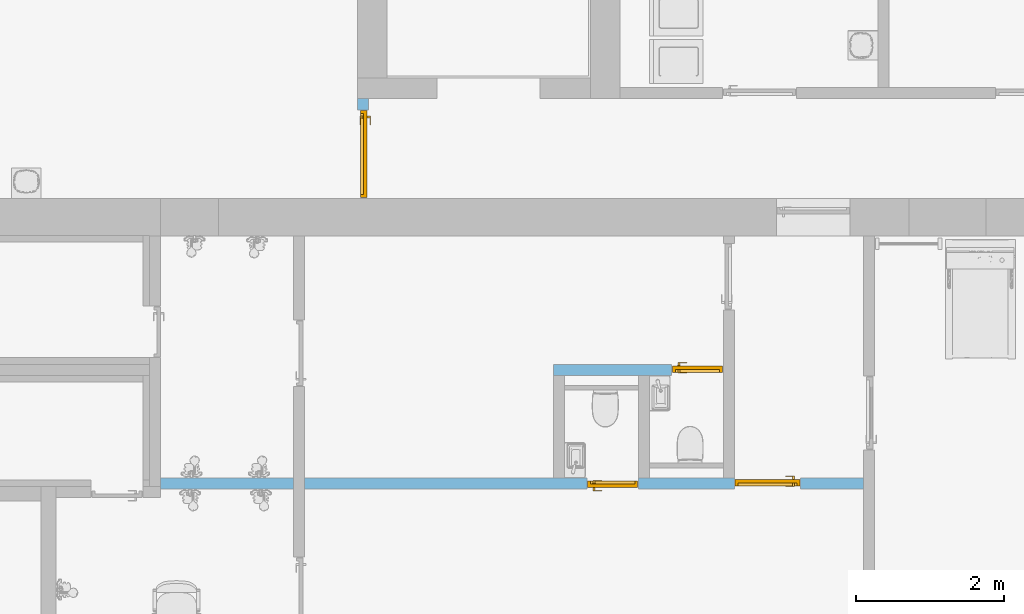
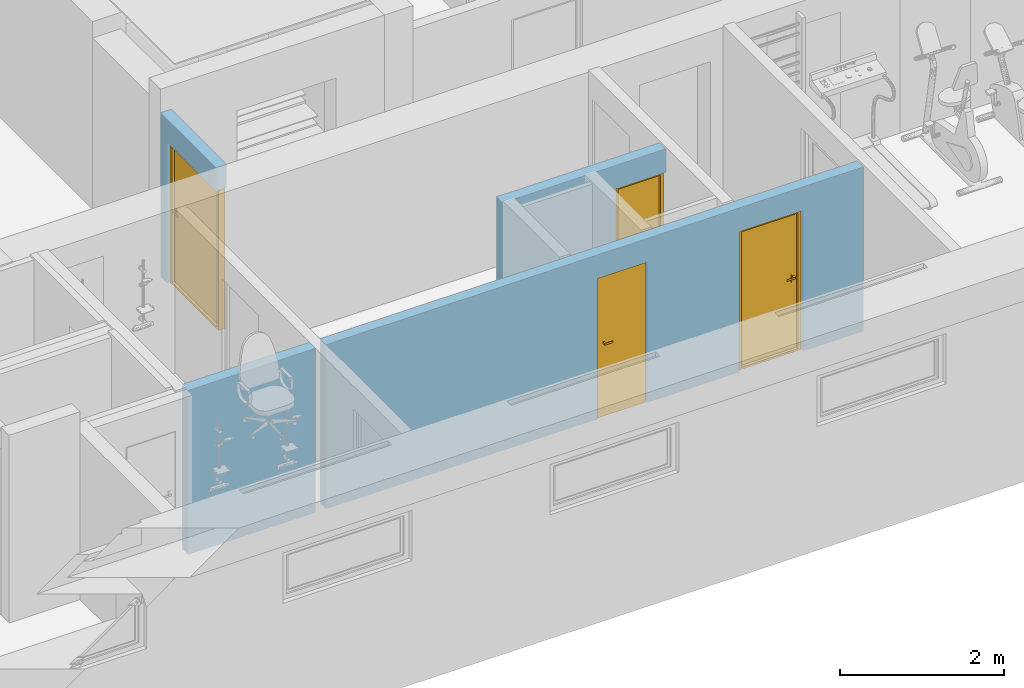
# One storey, part 11 of 23: 4 doors, 5 openings, plus 3 elements that do not belong to this part.
"""IFC2X3 building model written with IfcOpenShell, lengths in millimetres."""

from ifc_helpers import new_model, entity, si_unit, converted_unit, derived_unit, direction, frame, frame_2d, origin, place, context, subcontext, project, spatial, rectangle, extrude, faceted_brep, source, transform, mapped, material, material_list, layer, layer_set, layer_usage, type_object, type_shapes, element, fill, save


model = new_model("IFC2X3")

# Units and contexts
model_context = context("Model", 3, precision=0.01, world=origin(), true_north=direction((6.12303176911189e-17, 1.0)))
body_context = subcontext(model_context, "Body", "Model", "MODEL_VIEW")
ifc_project = project(units=[si_unit("LENGTHUNIT", "METRE", prefix="MILLI"), si_unit("AREAUNIT", "SQUARE_METRE"), si_unit("VOLUMEUNIT", "CUBIC_METRE"), converted_unit("PLANEANGLEUNIT", "DEGREE", entity("IfcRatioMeasure", 0.0174532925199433), si_unit("PLANEANGLEUNIT", "RADIAN"), dimensions=[0, 0, 0, 0, 0, 0, 0]), si_unit("MASSUNIT", "GRAM", prefix="KILO"), derived_unit("MASSDENSITYUNIT", [(si_unit("MASSUNIT", "GRAM", prefix="KILO"), 1), (si_unit("LENGTHUNIT", "METRE"), -3)]), si_unit("TIMEUNIT", "SECOND"), si_unit("FREQUENCYUNIT", "HERTZ"), si_unit("THERMODYNAMICTEMPERATUREUNIT", "DEGREE_CELSIUS"), derived_unit("THERMALTRANSMITTANCEUNIT", [(si_unit("MASSUNIT", "GRAM", prefix="KILO"), 1), (si_unit("THERMODYNAMICTEMPERATUREUNIT", "KELVIN"), -1), (si_unit("TIMEUNIT", "SECOND"), -3)]), derived_unit("VOLUMETRICFLOWRATEUNIT", [(si_unit("LENGTHUNIT", "METRE"), 3), (si_unit("TIMEUNIT", "SECOND"), -1)]), si_unit("ELECTRICCURRENTUNIT", "AMPERE"), si_unit("ELECTRICVOLTAGEUNIT", "VOLT"), si_unit("POWERUNIT", "WATT"), si_unit("FORCEUNIT", "NEWTON", prefix="KILO"), si_unit("ILLUMINANCEUNIT", "LUX"), si_unit("LUMINOUSFLUXUNIT", "LUMEN"), si_unit("LUMINOUSINTENSITYUNIT", "CANDELA"), derived_unit("USERDEFINED", [(si_unit("MASSUNIT", "GRAM", prefix="KILO"), -1), (si_unit("LENGTHUNIT", "METRE"), -2), (si_unit("TIMEUNIT", "SECOND"), 3), (si_unit("LUMINOUSFLUXUNIT", "LUMEN"), 1)]), derived_unit("LINEARVELOCITYUNIT", [(si_unit("LENGTHUNIT", "METRE"), 1), (si_unit("TIMEUNIT", "SECOND"), -1)]), si_unit("PRESSUREUNIT", "PASCAL"), derived_unit("USERDEFINED", [(si_unit("LENGTHUNIT", "METRE"), -2), (si_unit("MASSUNIT", "GRAM", prefix="KILO"), 1), (si_unit("TIMEUNIT", "SECOND"), -2)]), derived_unit("LINEARFORCEUNIT", [(si_unit("MASSUNIT", "GRAM", prefix="KILO"), 1), (si_unit("LENGTHUNIT", "METRE"), 1), (si_unit("TIMEUNIT", "SECOND"), -2), (si_unit("LENGTHUNIT", "METRE"), -1)]), derived_unit("PLANARFORCEUNIT", [(si_unit("MASSUNIT", "GRAM", prefix="KILO"), 1), (si_unit("LENGTHUNIT", "METRE"), 1), (si_unit("TIMEUNIT", "SECOND"), -2), (si_unit("LENGTHUNIT", "METRE"), -2)])], contexts=[model_context])

# Site, building, storey
site_placement = place(None, origin())
site = spatial("IfcSite", under=ifc_project, at=site_placement, Name="Default", CompositionType="ELEMENT")
building_placement = place(site_placement, origin())
building = spatial("IfcBuilding", under=site, at=building_placement, Name="SMA ARH", CompositionType="ELEMENT")
storey_placement = place(building_placement, frame((0.0, 0.0, -2800.0)))
storey = spatial("IfcBuildingStorey", under=building, at=storey_placement, Name="0 Sokkel", CompositionType="ELEMENT", Elevation=-2800.0)

# Wall, opening, door
ifc_material_1 = material(Name="EST. Müüritis. Väikeplokk. Kergkruusplokk")
ifc_layer_1 = layer(ifc_material_1, 150.0)
ifc_layer_set_1 = layer_set([ifc_layer_1], Name="Basic Wall:SS-02_ 150mm šahtide vahesein")
ifc_layer_usage_1 = layer_usage(ifc_layer_set_1, "AXIS2", "NEGATIVE", 75.0)
wall_type_1 = type_object("IfcWallType", Name="Basic Wall:SS-02_ 150mm šahtide vahesein", PredefinedType="STANDARD", material=ifc_layer_set_1)
wall_1_placement = place(storey_placement, frame((8515.0, 7875.0, 0.0), z_axis=(0.0, 0.0, 1.0), x_axis=(0.0, -1.0, 0.0)))
wall_1 = element("IfcWallStandardCase", 1, at=wall_1_placement, inside=storey, type_object=wall_type_1, material=ifc_layer_usage_1, Name="Basic Wall:SS-02_ 150mm šahtide vahesein", ObjectType="Basic Wall:SS-02_ 150mm šahtide vahesein", context=body_context, shape_type="SweptSolid", body=[
    extrude(rectangle(XDim=1354.99999999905, YDim=150.000000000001, at=frame_2d((677.499999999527, -2.8421709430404e-14), x_axis=(-1.0, 0.0))), origin(), (0.0, 0.0, 1.0), 2450.0),
])
opening_1_placement = place(wall_1_placement, frame((155.0, -75.0, 0.0)))
opening_1 = element("IfcOpeningElement", 2, at=opening_1_placement, cuts=wall_1, Name="SMA_D01, 1-poolne:SU-M-01 - 1200x2100 EI-30:1", ObjectType="Opening", context=body_context, shape_type="SweptSolid", body=[
    extrude(rectangle(XDim=2099.99999999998, YDim=1200.0, at=frame_2d((1049.99999999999, 600.0), x_axis=(1.0, 0.0))), frame((0.0, 0.0, 0.0), z_axis=(0.0, 1.0, 0.0), x_axis=(0.0, 0.0, 1.0)), (0.0, 0.0, 1.0), 150.0),
])
ifc_material_2 = material(Name="EST. Metall. Alumiinium. Värvitud. RAL7023 (Concrete grey)")
ifc_material_3 = material(Name="<Unnamed>")
ifc_material_4 = material(Name="EST. Klaas. 3x. Default")
ifc_material_list_1 = material_list([ifc_material_3, ifc_material_3, ifc_material_2, ifc_material_2, ifc_material_2, ifc_material_3, ifc_material_4])
door_style_1 = type_object("IfcDoorStyle", Name="SMA_D01, 1-poolne:SU-M-01 - 1200x2100 EI-30", ConstructionType="NOTDEFINED", OperationType="NOTDEFINED", ParameterTakesPrecedence=False, Sizeable=False, material=ifc_material_list_1)
shared_shape_1 = source(origin(), body_context, "Body", "Brep", [
    faceted_brep([(110.0, 40.0, 1112.5), (110.0, 78.0, 1112.5), (85.0, 78.0, 1112.5), (85.0, 35.0, 1112.5), (205.0, 35.0, 1112.5), (205.0, 40.0, 1112.5), (110.0, 40.0, 1087.5), (205.0, 40.0, 1087.5), (205.0, 35.0, 1087.5), (85.0, 35.0, 1087.5), (85.0, 78.0, 1087.5), (110.0, 78.0, 1087.5)], [[[0, 1, 2, 3, 4, 5]], [[6, 7, 8, 9, 10, 11]], [[1, 0, 6, 11]], [[2, 1, 11, 10]], [[3, 2, 10, 9]], [[4, 3, 9, 8]], [[5, 4, 8, 7]], [[0, 5, 7, 6]]]),
    faceted_brep([(122.499999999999, 78.0, 1137.5), (122.499999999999, 80.0, 1137.5), (72.4999999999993, 80.0, 1137.5), (72.4999999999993, 78.0, 1137.5), (122.499999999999, 78.0, 1017.5), (72.4999999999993, 78.0, 1017.5), (72.4999999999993, 80.0, 1017.5), (122.499999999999, 80.0, 1017.5)], [[[0, 1, 2, 3]], [[4, 5, 6, 7]], [[1, 0, 4, 7]], [[2, 1, 7, 6]], [[3, 2, 6, 5]], [[0, 3, 5, 4]]]),
    faceted_brep([(110.0, 170.0, 1112.5), (205.0, 170.0, 1112.5), (205.0, 175.0, 1112.5), (85.0, 175.0, 1112.5), (85.0, 132.0, 1112.5), (110.0, 132.0, 1112.5), (110.0, 170.0, 1087.5), (110.0, 132.0, 1087.5), (85.0, 132.0, 1087.5), (85.0, 175.0, 1087.5), (205.0, 175.0, 1087.5), (205.0, 170.0, 1087.5)], [[[0, 1, 2, 3, 4, 5]], [[6, 7, 8, 9, 10, 11]], [[5, 7, 6, 0]], [[4, 8, 7, 5]], [[3, 9, 8, 4]], [[2, 10, 9, 3]], [[1, 11, 10, 2]], [[0, 6, 11, 1]]]),
    faceted_brep([(122.499999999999, 132.0, 1137.5), (72.4999999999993, 132.0, 1137.5), (72.4999999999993, 130.0, 1137.5), (122.499999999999, 130.0, 1137.5), (122.499999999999, 132.0, 1017.5), (122.499999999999, 130.0, 1017.5), (72.4999999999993, 130.0, 1017.5), (72.4999999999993, 132.0, 1017.5)], [[[0, 1, 2, 3]], [[4, 5, 6, 7]], [[3, 5, 4, 0]], [[2, 6, 5, 3]], [[1, 7, 6, 2]], [[0, 4, 7, 1]]]),
    faceted_brep([(1150.0, 40.0, 30.0), (1150.0, 40.0, 0.0), (1150.0, 80.0, 0.0), (1150.0, 80.0, 20.0), (1150.0, 80.0, 30.0), (50.0, 40.0, 30.0), (50.0, 80.0, 30.0), (50.0, 80.0, 20.0), (50.0, 80.0, 0.0), (50.0, 40.0, 0.0), (35.0, 80.0, 0.0), (35.0, 130.0, 0.0), (1165.0, 130.0, 0.0), (1165.0, 80.0, 0.0), (1165.0, 130.0, 20.0), (1165.0, 80.0, 20.0), (35.0, 130.0, 20.0), (35.0, 80.0, 20.0)], [[[0, 1, 2, 3, 4]], [[5, 6, 7, 8, 9]], [[1, 0, 5, 9]], [[2, 1, 9, 8, 10, 11, 12, 13]], [[6, 4, 3, 7]], [[0, 4, 6, 5]], [[14, 15, 13, 12]], [[16, 11, 10, 17]], [[15, 14, 16, 17, 7, 3]], [[13, 15, 3, 2]], [[14, 12, 11, 16]], [[17, 10, 8, 7]]]),
    faceted_brep([(1190.0, 40.0, 0.0), (1150.0, 40.0, 0.0), (1150.0, 80.0, 0.0), (1165.0, 80.0, 0.0), (1165.0, 130.0, 0.0), (1190.0, 130.0, 0.0), (1190.0, 40.0, 2090.0), (10.0, 40.0, 2090.0), (10.0, 40.0, 0.0), (50.0, 40.0, 0.0), (50.0, 40.0, 2050.0), (1150.0, 40.0, 2050.0), (1150.0, 80.0, 2050.0), (50.0, 80.0, 2050.0), (50.0, 80.0, 0.0), (35.0, 80.0, 0.0), (35.0, 80.0, 2065.0), (1165.0, 80.0, 2065.0), (1165.0, 130.0, 2065.0), (35.0, 130.0, 2065.0), (35.0, 130.0, 0.0), (10.0, 130.0, 0.0), (10.0, 130.0, 2090.0), (1190.0, 130.0, 2090.0)], [[[0, 1, 2, 3, 4, 5]], [[1, 0, 6, 7, 8, 9, 10, 11]], [[2, 1, 11, 12]], [[3, 2, 12, 13, 14, 15, 16, 17]], [[4, 3, 17, 18]], [[5, 4, 18, 19, 20, 21, 22, 23]], [[0, 5, 23, 6]], [[8, 7, 22, 21]], [[9, 8, 21, 20, 15, 14]], [[10, 9, 14, 13]], [[16, 15, 20, 19]], [[11, 10, 13, 12]], [[17, 16, 19, 18]], [[7, 6, 23, 22]]]),
    faceted_brep([(35.0, 80.0, 2065.0), (35.0, 80.0, 20.0), (1165.0, 80.0, 20.0), (1165.0, 80.0, 2065.0), (35.0, 130.0, 2065.0), (1165.0, 130.0, 2065.0), (1165.0, 130.0, 20.0), (35.0, 130.0, 20.0)], [[[0, 1, 2, 3]], [[4, 5, 6, 7]], [[1, 0, 4, 7]], [[2, 1, 7, 6]], [[3, 2, 6, 5]], [[0, 3, 5, 4]]]),
])
type_shapes(door_style_1, [shared_shape_1])
door_1_placement = place(opening_1_placement, origin())
door_1 = element("IfcDoor", 3, at=door_1_placement, inside=storey, type_object=door_style_1, material=ifc_material_2, Name="SMA_D01, 1-poolne:SU-M-01 - 1200x2100 EI-30", ObjectType="SMA_D01, 1-poolne:SU-M-01 - 1200x2100 EI-30", OverallHeight=2099.99999999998, OverallWidth=1200.0, context=body_context, shape_type="MappedRepresentation", body=[
    mapped(shared_shape_1, transform((0.0, 0.0, 0.0), scale=1.0)),
])
fill(opening_1, door_1)

# Wall, openings, doors
ifc_layer_2 = layer(ifc_material_1, 150.0)
ifc_layer_set_2 = layer_set([ifc_layer_2], Name="Basic Wall:SS-01_ 150mm soklikorruse seinad")
ifc_layer_usage_2 = layer_usage(ifc_layer_set_2, "AXIS2", "NEGATIVE", 75.0)
wall_type_2 = type_object("IfcWallType", Name="Basic Wall:SS-01_ 150mm soklikorruse seinad", PredefinedType="STANDARD", material=ifc_layer_set_2)
wall_2_placement = place(storey_placement, frame((5769.97172272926, 2655.0, 0.0)))
wall_2 = element("IfcWallStandardCase", 4, at=wall_2_placement, inside=storey, type_object=wall_type_2, material=ifc_layer_usage_2, Name="Basic Wall:SS-01_ 150mm soklikorruse seinad", ObjectType="Basic Wall:SS-01_ 150mm soklikorruse seinad", context=body_context, shape_type="SweptSolid", body=[
    extrude(rectangle(XDim=9530.02827727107, YDim=150.000000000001, at=frame_2d((4765.01413863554, -6.3948846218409e-14), x_axis=(-1.0, 0.0))), origin(), (0.0, 0.0, 1.0), 2450.0),
])
opening_2_placement = place(storey_placement, frame((5769.97172272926, 2655.0, 0.0)))
element("IfcOpeningElement", 5, at=opening_2_placement, cuts=wall_2, Name="Basic Wall:SS-01_ 150mm soklikorruse seinad:1", ObjectType="Opening", context=body_context, shape_type="SweptSolid", body=[
    extrude(rectangle(XDim=2450.0, YDim=150.0, at=frame_2d((0.0, 2.70006239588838e-13), x_axis=(1.0, 0.0))), frame((1800.0, 0.0, 1225.0), z_axis=(1.0, 0.0, 0.0), x_axis=(0.0, 0.0, -1.0)), (0.0, 0.0, 1.0), 149.999999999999),
])
opening_3_placement = place(wall_2_placement, frame((7780.05188595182, -75.0, 0.0)))
opening_3 = element("IfcOpeningElement", 6, at=opening_3_placement, cuts=wall_2, Name="SMA_D01, 1-poolne:SU-P-01 - 900x2100:1", ObjectType="Opening", context=body_context, shape_type="SweptSolid", body=[
    extrude(rectangle(XDim=2099.99999999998, YDim=900.0, at=frame_2d((1049.99999999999, 450.0), x_axis=(1.0, 0.0))), frame((0.0, 0.0, 0.0), z_axis=(0.0, 1.0, 0.0), x_axis=(0.0, 0.0, 1.0)), (0.0, 0.0, 1.0), 150.0),
])
opening_4_placement = place(wall_2_placement, frame((6480.05188595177, 75.0, 0.0)))
opening_4 = element("IfcOpeningElement", 7, at=opening_4_placement, cuts=wall_2, Name="SMA_D01, 1-poolne:SU-P-02 - 700x2100:1", ObjectType="Opening", context=body_context, shape_type="SweptSolid", body=[
    extrude(rectangle(XDim=2099.99999999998, YDim=700.0, at=frame_2d((1049.99999999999, 350.000000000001), x_axis=(1.0, 0.0))), frame((0.0, 0.0, 0.0), z_axis=(0.0, -1.0, 0.0), x_axis=(0.0, 0.0, 1.0)), (0.0, 0.0, 1.0), 150.0),
])
ifc_material_list_2 = material_list([ifc_material_3, ifc_material_3, ifc_material_2, ifc_material_2, ifc_material_2, ifc_material_4, ifc_material_3])
door_style_2 = type_object("IfcDoorStyle", Name="SMA_D01, 1-poolne:SU-P-01 - 900x2100", ConstructionType="NOTDEFINED", OperationType="NOTDEFINED", ParameterTakesPrecedence=False, Sizeable=False, material=ifc_material_list_2)
shared_shape_2 = source(origin(), body_context, "Body", "Brep", [
    faceted_brep([(790.0, 40.0, 1112.5), (695.0, 40.0, 1112.5), (695.0, 35.0, 1112.5), (815.0, 35.0, 1112.5), (815.0, 78.0, 1112.5), (790.0, 78.0, 1112.5), (790.0, 40.0, 1087.5), (790.0, 78.0, 1087.5), (815.0, 78.0, 1087.5), (815.0, 35.0, 1087.5), (695.0, 35.0, 1087.5), (695.0, 40.0, 1087.5)], [[[0, 1, 2, 3, 4, 5]], [[6, 7, 8, 9, 10, 11]], [[5, 7, 6, 0]], [[4, 8, 7, 5]], [[3, 9, 8, 4]], [[2, 10, 9, 3]], [[1, 11, 10, 2]], [[0, 6, 11, 1]]]),
    faceted_brep([(777.500000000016, 78.0, 1137.5), (827.500000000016, 78.0, 1137.5), (827.500000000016, 80.0, 1137.5), (777.500000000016, 80.0, 1137.5), (777.500000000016, 78.0, 1017.5), (777.500000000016, 80.0, 1017.5), (827.500000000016, 80.0, 1017.5), (827.500000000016, 78.0, 1017.5)], [[[0, 1, 2, 3]], [[4, 5, 6, 7]], [[3, 5, 4, 0]], [[2, 6, 5, 3]], [[1, 7, 6, 2]], [[0, 4, 7, 1]]]),
    faceted_brep([(790.0, 170.0, 1112.5), (790.0, 132.0, 1112.5), (815.0, 132.0, 1112.5), (815.0, 175.0, 1112.5), (695.0, 175.0, 1112.5), (695.0, 170.0, 1112.5), (790.0, 170.0, 1087.5), (695.0, 170.0, 1087.5), (695.0, 175.0, 1087.5), (815.0, 175.0, 1087.5), (815.0, 132.0, 1087.5), (790.0, 132.0, 1087.5)], [[[0, 1, 2, 3, 4, 5]], [[6, 7, 8, 9, 10, 11]], [[1, 0, 6, 11]], [[2, 1, 11, 10]], [[3, 2, 10, 9]], [[4, 3, 9, 8]], [[5, 4, 8, 7]], [[0, 5, 7, 6]]]),
    faceted_brep([(777.500000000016, 132.0, 1137.5), (777.500000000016, 130.0, 1137.5), (827.500000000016, 130.0, 1137.5), (827.500000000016, 132.0, 1137.5), (777.500000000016, 132.0, 1017.5), (827.500000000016, 132.0, 1017.5), (827.500000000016, 130.0, 1017.5), (777.500000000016, 130.0, 1017.5)], [[[0, 1, 2, 3]], [[4, 5, 6, 7]], [[1, 0, 4, 7]], [[2, 1, 7, 6]], [[3, 2, 6, 5]], [[0, 3, 5, 4]]]),
    faceted_brep([(50.0, 40.0, 30.0), (50.0, 80.0, 30.0), (50.0, 80.0, 20.0), (50.0, 80.0, 0.0), (50.0, 40.0, 0.0), (850.0, 40.0, 30.0), (850.0, 40.0, 0.0), (850.0, 80.0, 0.0), (850.0, 80.0, 20.0), (850.0, 80.0, 30.0), (35.0, 80.0, 0.0), (35.0, 130.0, 0.0), (865.0, 130.0, 0.0), (865.0, 80.0, 0.0), (35.0, 130.0, 20.0), (35.0, 80.0, 20.0), (865.0, 130.0, 20.0), (865.0, 80.0, 20.0)], [[[0, 1, 2, 3, 4]], [[5, 6, 7, 8, 9]], [[4, 6, 5, 0]], [[3, 10, 11, 12, 13, 7, 6, 4]], [[9, 8, 2, 1]], [[0, 5, 9, 1]], [[14, 11, 10, 15]], [[16, 17, 13, 12]], [[15, 2, 8, 17, 16, 14]], [[10, 3, 2, 15]], [[14, 16, 12, 11]], [[17, 8, 7, 13]]]),
    faceted_brep([(10.0, 40.0, 0.0), (10.0, 130.0, 0.0), (35.0, 130.0, 0.0), (35.0, 80.0, 0.0), (50.0, 80.0, 0.0), (50.0, 40.0, 0.0), (50.0, 40.0, 2050.0), (850.0, 40.0, 2050.0), (850.0, 40.0, 0.0), (890.0, 40.0, 0.0), (890.0, 40.0, 2090.0), (10.0, 40.0, 2090.0), (50.0, 80.0, 2050.0), (35.0, 80.0, 2065.0), (865.0, 80.0, 2065.0), (865.0, 80.0, 0.0), (850.0, 80.0, 0.0), (850.0, 80.0, 2050.0), (35.0, 130.0, 2065.0), (10.0, 130.0, 2090.0), (890.0, 130.0, 2090.0), (890.0, 130.0, 0.0), (865.0, 130.0, 0.0), (865.0, 130.0, 2065.0)], [[[0, 1, 2, 3, 4, 5]], [[5, 6, 7, 8, 9, 10, 11, 0]], [[4, 12, 6, 5]], [[3, 13, 14, 15, 16, 17, 12, 4]], [[2, 18, 13, 3]], [[1, 19, 20, 21, 22, 23, 18, 2]], [[0, 11, 19, 1]], [[9, 21, 20, 10]], [[8, 16, 15, 22, 21, 9]], [[7, 17, 16, 8]], [[14, 23, 22, 15]], [[6, 12, 17, 7]], [[13, 18, 23, 14]], [[10, 20, 19, 11]]]),
    faceted_brep([(865.0, 80.0, 2065.0), (35.0, 80.0, 2065.0), (35.0, 80.0, 20.0), (865.0, 80.0, 20.0), (865.0, 130.0, 2065.0), (865.0, 130.0, 20.0), (35.0, 130.0, 20.0), (35.0, 130.0, 2065.0)], [[[0, 1, 2, 3]], [[4, 5, 6, 7]], [[3, 5, 4, 0]], [[2, 6, 5, 3]], [[1, 7, 6, 2]], [[0, 4, 7, 1]]]),
])
type_shapes(door_style_2, [shared_shape_2])
door_2_placement = place(opening_3_placement, origin())
door_2 = element("IfcDoor", 8, at=door_2_placement, inside=storey, type_object=door_style_2, material=ifc_material_2, Name="SMA_D01, 1-poolne:SU-P-01 - 900x2100", ObjectType="SMA_D01, 1-poolne:SU-P-01 - 900x2100", OverallHeight=2099.99999999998, OverallWidth=899.999999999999, context=body_context, shape_type="MappedRepresentation", body=[
    mapped(shared_shape_2, transform((0.0, 0.0, 0.0), scale=1.0)),
])
fill(opening_3, door_2)
ifc_material_list_3 = material_list([ifc_material_3, ifc_material_2, ifc_material_2, ifc_material_2, ifc_material_4, ifc_material_3, ifc_material_3])
door_style_3 = type_object("IfcDoorStyle", Name="SMA_D01, 1-poolne:SU-P-02 - 700x2100", ConstructionType="NOTDEFINED", OperationType="NOTDEFINED", ParameterTakesPrecedence=False, Sizeable=False, material=ifc_material_list_3)
shared_shape_3 = source(origin(), body_context, "Body", "Brep", [
    faceted_brep([(590.0, 40.0, 1112.5), (495.0, 40.0, 1112.5), (495.0, 35.0, 1112.5), (615.0, 35.0, 1112.5), (615.0, 78.0, 1112.5), (590.0, 78.0, 1112.5), (590.0, 40.0, 1087.5), (590.0, 78.0, 1087.5), (615.0, 78.0, 1087.5), (615.0, 35.0, 1087.5), (495.0, 35.0, 1087.5), (495.0, 40.0, 1087.5)], [[[0, 1, 2, 3, 4, 5]], [[6, 7, 8, 9, 10, 11]], [[5, 7, 6, 0]], [[4, 8, 7, 5]], [[3, 9, 8, 4]], [[2, 10, 9, 3]], [[1, 11, 10, 2]], [[0, 6, 11, 1]]]),
    faceted_brep([(577.500000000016, 78.0, 1137.5), (627.500000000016, 78.0, 1137.5), (627.500000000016, 80.0, 1137.5), (577.500000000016, 80.0, 1137.5), (577.500000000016, 78.0, 1017.5), (577.500000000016, 80.0, 1017.5), (627.500000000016, 80.0, 1017.5), (627.500000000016, 78.0, 1017.5)], [[[0, 1, 2, 3]], [[4, 5, 6, 7]], [[3, 5, 4, 0]], [[2, 6, 5, 3]], [[1, 7, 6, 2]], [[0, 4, 7, 1]]]),
    faceted_brep([(590.0, 170.0, 1112.5), (590.0, 132.0, 1112.5), (615.0, 132.0, 1112.5), (615.0, 175.0, 1112.5), (495.0, 175.0, 1112.5), (495.0, 170.0, 1112.5), (590.0, 170.0, 1087.5), (495.0, 170.0, 1087.5), (495.0, 175.0, 1087.5), (615.0, 175.0, 1087.5), (615.0, 132.0, 1087.5), (590.0, 132.0, 1087.5)], [[[0, 1, 2, 3, 4, 5]], [[6, 7, 8, 9, 10, 11]], [[1, 0, 6, 11]], [[2, 1, 11, 10]], [[3, 2, 10, 9]], [[4, 3, 9, 8]], [[5, 4, 8, 7]], [[0, 5, 7, 6]]]),
    faceted_brep([(577.500000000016, 132.0, 1137.5), (577.500000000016, 130.0, 1137.5), (627.500000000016, 130.0, 1137.5), (627.500000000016, 132.0, 1137.5), (577.500000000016, 132.0, 1017.5), (627.500000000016, 132.0, 1017.5), (627.500000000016, 130.0, 1017.5), (577.500000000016, 130.0, 1017.5)], [[[0, 1, 2, 3]], [[4, 5, 6, 7]], [[1, 0, 4, 7]], [[2, 1, 7, 6]], [[3, 2, 6, 5]], [[0, 3, 5, 4]]]),
    faceted_brep([(50.0, 40.0, 30.0), (50.0, 80.0, 30.0), (50.0, 80.0, 20.0), (50.0, 80.0, 0.0), (50.0, 40.0, 0.0), (650.0, 40.0, 30.0), (650.0, 40.0, 0.0), (650.0, 80.0, 0.0), (650.0, 80.0, 20.0), (650.0, 80.0, 30.0), (35.0, 80.0, 0.0), (35.0, 130.0, 0.0), (665.0, 130.0, 0.0), (665.0, 80.0, 0.0), (35.0, 130.0, 20.0), (35.0, 80.0, 20.0), (665.0, 130.0, 20.0), (665.0, 80.0, 20.0)], [[[0, 1, 2, 3, 4]], [[5, 6, 7, 8, 9]], [[4, 6, 5, 0]], [[3, 10, 11, 12, 13, 7, 6, 4]], [[9, 8, 2, 1]], [[0, 5, 9, 1]], [[14, 11, 10, 15]], [[16, 17, 13, 12]], [[15, 2, 8, 17, 16, 14]], [[10, 3, 2, 15]], [[14, 16, 12, 11]], [[17, 8, 7, 13]]]),
    faceted_brep([(10.0, 40.0, 0.0), (10.0, 130.0, 0.0), (35.0, 130.0, 0.0), (35.0, 80.0, 0.0), (50.0, 80.0, 0.0), (50.0, 40.0, 0.0), (50.0, 40.0, 2050.0), (650.0, 40.0, 2050.0), (650.0, 40.0, 0.0), (690.0, 40.0, 0.0), (690.0, 40.0, 2090.0), (10.0, 40.0, 2090.0), (50.0, 80.0, 2050.0), (35.0, 80.0, 2065.0), (665.0, 80.0, 2065.0), (665.0, 80.0, 0.0), (650.0, 80.0, 0.0), (650.0, 80.0, 2050.0), (35.0, 130.0, 2065.0), (10.0, 130.0, 2090.0), (690.0, 130.0, 2090.0), (690.0, 130.0, 0.0), (665.0, 130.0, 0.0), (665.0, 130.0, 2065.0)], [[[0, 1, 2, 3, 4, 5]], [[5, 6, 7, 8, 9, 10, 11, 0]], [[4, 12, 6, 5]], [[3, 13, 14, 15, 16, 17, 12, 4]], [[2, 18, 13, 3]], [[1, 19, 20, 21, 22, 23, 18, 2]], [[0, 11, 19, 1]], [[9, 21, 20, 10]], [[8, 16, 15, 22, 21, 9]], [[7, 17, 16, 8]], [[14, 23, 22, 15]], [[6, 12, 17, 7]], [[13, 18, 23, 14]], [[10, 20, 19, 11]]]),
    faceted_brep([(665.0, 80.0, 2065.0), (35.0, 80.0, 2065.0), (35.0, 80.0, 20.0), (665.0, 80.0, 20.0), (665.0, 130.0, 2065.0), (665.0, 130.0, 20.0), (35.0, 130.0, 20.0), (35.0, 130.0, 2065.0)], [[[0, 1, 2, 3]], [[4, 5, 6, 7]], [[3, 5, 4, 0]], [[2, 6, 5, 3]], [[1, 7, 6, 2]], [[0, 4, 7, 1]]]),
])
type_shapes(door_style_3, [shared_shape_3])
door_3_placement = place(opening_4_placement, frame((0.0, 0.0, 0.0), z_axis=(0.0, 0.0, 1.0), x_axis=(-1.0, 0.0, 0.0)))
door_3 = element("IfcDoor", 9, at=door_3_placement, inside=storey, type_object=door_style_3, material=ifc_material_2, Name="SMA_D01, 1-poolne:SU-P-02 - 700x2100", ObjectType="SMA_D01, 1-poolne:SU-P-02 - 700x2100", OverallHeight=2099.99999999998, OverallWidth=700.000000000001, context=body_context, shape_type="MappedRepresentation", body=[
    mapped(shared_shape_3, transform((0.0, 0.0, 0.0), scale=1.0)),
])
fill(opening_4, door_3)

# Wall, opening, door
ifc_layer_usage_3 = layer_usage(ifc_layer_set_2, "AXIS2", "NEGATIVE", 75.0)
wall_3_placement = place(storey_placement, frame((11100.023608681, 4195.0, 0.0)))
wall_3 = element("IfcWallStandardCase", 10, at=wall_3_placement, inside=storey, type_object=wall_type_2, material=ifc_layer_usage_3, Name="Basic Wall:SS-01_ 150mm soklikorruse seinad", ObjectType="Basic Wall:SS-01_ 150mm soklikorruse seinad", context=body_context, shape_type="SweptSolid", body=[
    extrude(rectangle(XDim=2300.00000000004, YDim=149.999999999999, at=frame_2d((1150.00000000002, 1.20792265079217e-13), x_axis=(-1.0, 0.0))), origin(), (0.0, 0.0, 1.0), 2450.0),
])
opening_5_placement = place(wall_3_placement, frame((1600.0, -75.0, 0.0)))
opening_5 = element("IfcOpeningElement", 11, at=opening_5_placement, cuts=wall_3, Name="SMA_D01, 1-poolne:SU-P-02 - 700x2100:1", ObjectType="Opening", context=body_context, shape_type="SweptSolid", body=[
    extrude(rectangle(XDim=2099.99999999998, YDim=700.0, at=frame_2d((1049.99999999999, 350.0), x_axis=(1.0, 0.0))), frame((0.0, 0.0, 0.0), z_axis=(0.0, 1.0, 0.0), x_axis=(0.0, 0.0, 1.0)), (0.0, 0.0, 1.0), 150.0),
])
ifc_material_list_4 = material_list([ifc_material_3, ifc_material_3, ifc_material_4, ifc_material_2, ifc_material_2, ifc_material_3, ifc_material_2])
door_style_4 = type_object("IfcDoorStyle", Name="SMA_D01, 1-poolne:SU-P-02 - 700x2100", ConstructionType="NOTDEFINED", OperationType="NOTDEFINED", ParameterTakesPrecedence=False, Sizeable=False, material=ifc_material_list_4)
shared_shape_4 = source(origin(), body_context, "Body", "Brep", [
    faceted_brep([(110.0, 40.0, 1112.5), (110.0, 78.0, 1112.5), (85.0, 78.0, 1112.5), (85.0, 35.0, 1112.5), (205.0, 35.0, 1112.5), (205.0, 40.0, 1112.5), (110.0, 40.0, 1087.5), (205.0, 40.0, 1087.5), (205.0, 35.0, 1087.5), (85.0, 35.0, 1087.5), (85.0, 78.0, 1087.5), (110.0, 78.0, 1087.5)], [[[0, 1, 2, 3, 4, 5]], [[6, 7, 8, 9, 10, 11]], [[1, 0, 6, 11]], [[2, 1, 11, 10]], [[3, 2, 10, 9]], [[4, 3, 9, 8]], [[5, 4, 8, 7]], [[0, 5, 7, 6]]]),
    faceted_brep([(122.5, 78.0, 1137.5), (122.5, 80.0, 1137.5), (72.4999999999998, 80.0, 1137.5), (72.4999999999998, 78.0, 1137.5), (122.5, 78.0, 1017.5), (72.4999999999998, 78.0, 1017.5), (72.4999999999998, 80.0, 1017.5), (122.5, 80.0, 1017.5)], [[[0, 1, 2, 3]], [[4, 5, 6, 7]], [[1, 0, 4, 7]], [[2, 1, 7, 6]], [[3, 2, 6, 5]], [[0, 3, 5, 4]]]),
    faceted_brep([(110.0, 170.0, 1112.5), (205.0, 170.0, 1112.5), (205.0, 175.0, 1112.5), (85.0, 175.0, 1112.5), (85.0, 132.0, 1112.5), (110.0, 132.0, 1112.5), (110.0, 170.0, 1087.5), (110.0, 132.0, 1087.5), (85.0, 132.0, 1087.5), (85.0, 175.0, 1087.5), (205.0, 175.0, 1087.5), (205.0, 170.0, 1087.5)], [[[0, 1, 2, 3, 4, 5]], [[6, 7, 8, 9, 10, 11]], [[5, 7, 6, 0]], [[4, 8, 7, 5]], [[3, 9, 8, 4]], [[2, 10, 9, 3]], [[1, 11, 10, 2]], [[0, 6, 11, 1]]]),
    faceted_brep([(122.5, 132.0, 1137.5), (72.4999999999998, 132.0, 1137.5), (72.4999999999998, 130.0, 1137.5), (122.5, 130.0, 1137.5), (122.5, 132.0, 1017.5), (122.5, 130.0, 1017.5), (72.4999999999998, 130.0, 1017.5), (72.4999999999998, 132.0, 1017.5)], [[[0, 1, 2, 3]], [[4, 5, 6, 7]], [[3, 5, 4, 0]], [[2, 6, 5, 3]], [[1, 7, 6, 2]], [[0, 4, 7, 1]]]),
    faceted_brep([(650.0, 40.0, 30.0), (650.0, 40.0, 0.0), (650.0, 80.0, 0.0), (650.0, 80.0, 20.0), (650.0, 80.0, 30.0), (50.0, 40.0, 30.0), (50.0, 80.0, 30.0), (50.0, 80.0, 20.0), (50.0, 80.0, 0.0), (50.0, 40.0, 0.0), (35.0, 80.0, 0.0), (35.0, 130.0, 0.0), (665.0, 130.0, 0.0), (665.0, 80.0, 0.0), (665.0, 130.0, 20.0), (665.0, 80.0, 20.0), (35.0, 130.0, 20.0), (35.0, 80.0, 20.0)], [[[0, 1, 2, 3, 4]], [[5, 6, 7, 8, 9]], [[1, 0, 5, 9]], [[2, 1, 9, 8, 10, 11, 12, 13]], [[6, 4, 3, 7]], [[0, 4, 6, 5]], [[14, 15, 13, 12]], [[16, 11, 10, 17]], [[15, 14, 16, 17, 7, 3]], [[13, 15, 3, 2]], [[14, 12, 11, 16]], [[17, 10, 8, 7]]]),
    faceted_brep([(690.0, 40.0, 0.0), (650.0, 40.0, 0.0), (650.0, 80.0, 0.0), (665.0, 80.0, 0.0), (665.0, 130.0, 0.0), (690.0, 130.0, 0.0), (690.0, 40.0, 2090.0), (10.0, 40.0, 2090.0), (10.0, 40.0, 0.0), (50.0, 40.0, 0.0), (50.0, 40.0, 2050.0), (650.0, 40.0, 2050.0), (650.0, 80.0, 2050.0), (50.0, 80.0, 2050.0), (50.0, 80.0, 0.0), (35.0, 80.0, 0.0), (35.0, 80.0, 2065.0), (665.0, 80.0, 2065.0), (665.0, 130.0, 2065.0), (35.0, 130.0, 2065.0), (35.0, 130.0, 0.0), (10.0, 130.0, 0.0), (10.0, 130.0, 2090.0), (690.0, 130.0, 2090.0)], [[[0, 1, 2, 3, 4, 5]], [[1, 0, 6, 7, 8, 9, 10, 11]], [[2, 1, 11, 12]], [[3, 2, 12, 13, 14, 15, 16, 17]], [[4, 3, 17, 18]], [[5, 4, 18, 19, 20, 21, 22, 23]], [[0, 5, 23, 6]], [[8, 7, 22, 21]], [[9, 8, 21, 20, 15, 14]], [[10, 9, 14, 13]], [[16, 15, 20, 19]], [[11, 10, 13, 12]], [[17, 16, 19, 18]], [[7, 6, 23, 22]]]),
    faceted_brep([(35.0, 80.0, 2065.0), (35.0, 80.0, 20.0), (665.0, 80.0, 20.0), (665.0, 80.0, 2065.0), (35.0, 130.0, 2065.0), (665.0, 130.0, 2065.0), (665.0, 130.0, 20.0), (35.0, 130.0, 20.0)], [[[0, 1, 2, 3]], [[4, 5, 6, 7]], [[1, 0, 4, 7]], [[2, 1, 7, 6]], [[3, 2, 6, 5]], [[0, 3, 5, 4]]]),
])
type_shapes(door_style_4, [shared_shape_4])
door_4_placement = place(opening_5_placement, origin())
door_4 = element("IfcDoor", 12, at=door_4_placement, inside=storey, type_object=door_style_4, material=ifc_material_2, Name="SMA_D01, 1-poolne:SU-P-02 - 700x2100", ObjectType="SMA_D01, 1-poolne:SU-P-02 - 700x2100", OverallHeight=2099.99999999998, OverallWidth=700.000000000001, context=body_context, shape_type="MappedRepresentation", body=[
    mapped(shared_shape_4, transform((0.0, 0.0, 0.0), scale=1.0)),
])
fill(opening_5, door_4)

save(model, "model.ifc")
